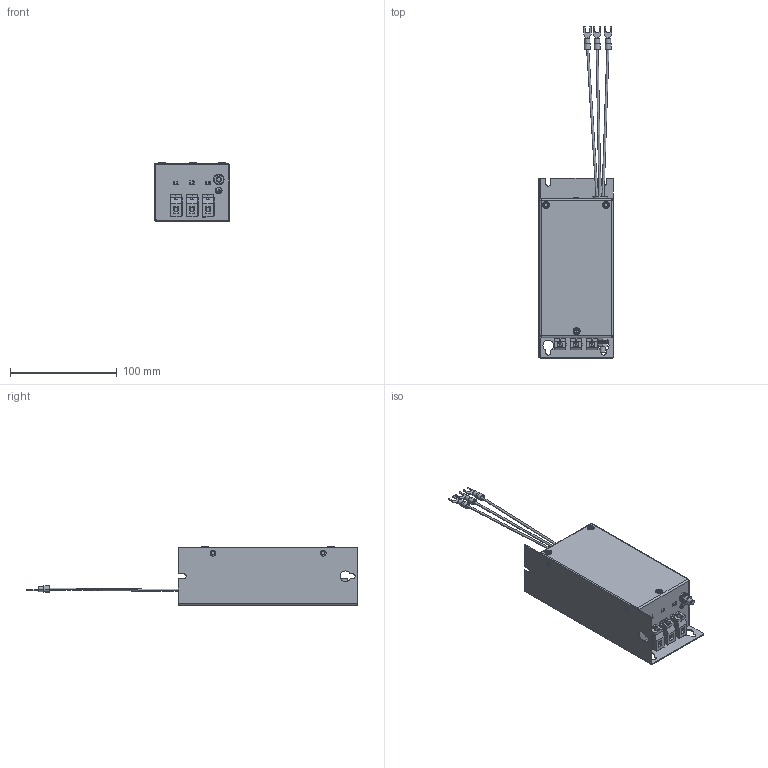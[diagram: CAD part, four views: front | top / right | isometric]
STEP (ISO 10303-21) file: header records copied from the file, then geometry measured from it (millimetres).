
FILE_DESCRIPTION (( 'STEP AP214' ), '1' );
FILE_NAME ('EFR-EFF-3A-7A.STEP', '2026-01-14T09:13:42', ( '' ), ( '' ), 'SwSTEP 2.0', 'SolidWorks 2025', '' );
FILE_SCHEMA (( 'AUTOMOTIVE_DESIGN' ));
Length unit declared in the file: millimetre
Products named in the file (18): 1000-502.Harness2.stp; FH-M4-10Z.stp; ISO 4036 - M5_1.stp; 3Aupdate_10JN26.stp; 3240034.stp; 3240034_01.stp; ISO 7091 - 5.stp; MPT410_1.stp.SLDPRT; EFR-EFF-3A-7A; 1000-501 body.stp; 1000-502.Harness2_1.stp; 3240034_02.stp; BS 4464 - 5.35_1.stp; Gromm ID7.00.stp; AETKS-M4-2.5ZI-PennEngineering-3D-12-04-2025.stp; IFI 505 - 42, FHSBMBR_1.stp.SLDPRT; ISO 7045 - M5 x 16 - 4.8 - H.stp; 1000-501.stp
Assembly tree (28 placements, depth 4):
  EFR-EFF-3A-7A
    3Aupdate_10JN26.stp
      3240034.stp  x3
        3240034_01.stp
        3240034_02.stp
      1000-502.Harness2.stp
        1000-502.Harness2_1.stp
      1000-501 body.stp
      AETKS-M4-2.5ZI-PennEngineering-3D-12-04-2025.stp  x3
      MPT410_1.stp.SLDPRT  x3
      1000-501.stp
      Gromm ID7.00.stp
      IFI 505 - 42, FHSBMBR_1.stp.SLDPRT  x4
      FH-M4-10Z.stp
      ISO 7045 - M5 x 16 - 4.8 - H.stp
      ISO 4036 - M5_1.stp  x2
      ISO 7091 - 5.stp  x2
      BS 4464 - 5.35_1.stp
Bounding box: 70.42 x 310.52 x 54.46 mm (x, y, z)
Volume: 55352.7 mm3; surface area: 105748.2 mm2
Topology: 29 solids, 59 shells, 1655 faces, 4261 edges, 2760 vertices
Faces by surface type: plane 1223, cylinder 245, cone 96, bspline 57, torus 32, sphere 2
Full cylindrical faces by diameter (mm): 4.8 x3
Entity records: 28271 total; most frequent: CARTESIAN_POINT 6863, ORIENTED_EDGE 4474, DIRECTION 3986, EDGE_CURVE 2243, LINE 1498, VECTOR 1498, VERTEX_POINT 1454, AXIS2_PLACEMENT_3D 1244
